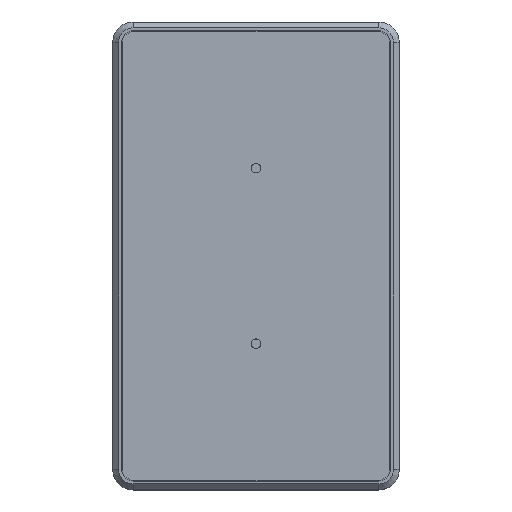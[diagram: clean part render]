
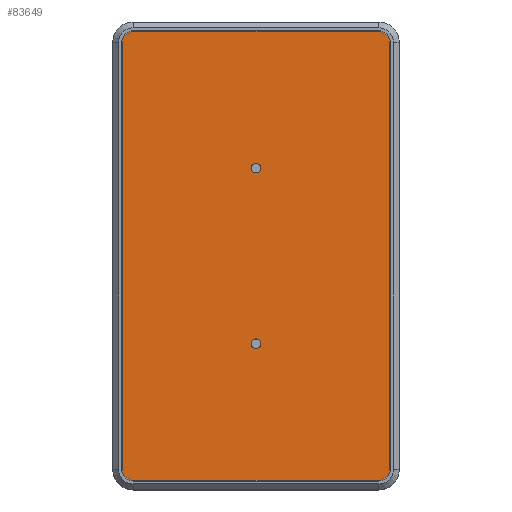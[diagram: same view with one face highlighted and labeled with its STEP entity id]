
A CAD part, top view. The second image highlights one B-rep face of the part: STEP entity #83649.
In plain terms, the highlighted planar face has unit normal (0, 0, 1).
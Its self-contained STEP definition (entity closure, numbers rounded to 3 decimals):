
#1397=FACE_BOUND('',#12962,.T.);
#1398=FACE_BOUND('',#12963,.T.);
#8306=FACE_OUTER_BOUND('',#12961,.T.);
#12961=EDGE_LOOP('',(#71440,#71441,#71442,#71443,#71444,#71445,#71446,#71447));
#12962=EDGE_LOOP('',(#71448));
#12963=EDGE_LOOP('',(#71449));
#19980=LINE('',#177970,#27014);
#19984=LINE('',#177982,#27018);
#19988=LINE('',#177994,#27022);
#19992=LINE('',#178005,#27026);
#27014=VECTOR('',#109462,10.);
#27018=VECTOR('',#109474,10.);
#27022=VECTOR('',#109486,10.);
#27026=VECTOR('',#109498,10.);
#29808=CIRCLE('',#90033,1.621);
#29809=CIRCLE('',#90035,1.621);
#29810=CIRCLE('',#90037,4.);
#29812=CIRCLE('',#90041,4.);
#29814=CIRCLE('',#90045,4.);
#29816=CIRCLE('',#90049,4.);
#37462=VERTEX_POINT('',#177952);
#37463=VERTEX_POINT('',#177956);
#37464=VERTEX_POINT('',#177960);
#37465=VERTEX_POINT('',#177961);
#37468=VERTEX_POINT('',#177969);
#37470=VERTEX_POINT('',#177975);
#37472=VERTEX_POINT('',#177981);
#37474=VERTEX_POINT('',#177987);
#37476=VERTEX_POINT('',#177993);
#37478=VERTEX_POINT('',#177999);
#48910=EDGE_CURVE('',#37462,#37462,#29808,.T.);
#48912=EDGE_CURVE('',#37463,#37463,#29809,.T.);
#48914=EDGE_CURVE('',#37464,#37465,#29810,.T.);
#48918=EDGE_CURVE('',#37465,#37468,#19980,.T.);
#48921=EDGE_CURVE('',#37468,#37470,#29812,.T.);
#48924=EDGE_CURVE('',#37470,#37472,#19984,.T.);
#48927=EDGE_CURVE('',#37472,#37474,#29814,.T.);
#48930=EDGE_CURVE('',#37474,#37476,#19988,.T.);
#48933=EDGE_CURVE('',#37476,#37478,#29816,.T.);
#48936=EDGE_CURVE('',#37478,#37464,#19992,.T.);
#71440=ORIENTED_EDGE('',*,*,#48914,.F.);
#71441=ORIENTED_EDGE('',*,*,#48936,.F.);
#71442=ORIENTED_EDGE('',*,*,#48933,.F.);
#71443=ORIENTED_EDGE('',*,*,#48930,.F.);
#71444=ORIENTED_EDGE('',*,*,#48927,.F.);
#71445=ORIENTED_EDGE('',*,*,#48924,.F.);
#71446=ORIENTED_EDGE('',*,*,#48921,.F.);
#71447=ORIENTED_EDGE('',*,*,#48918,.F.);
#71448=ORIENTED_EDGE('',*,*,#48910,.T.);
#71449=ORIENTED_EDGE('',*,*,#48912,.T.);
#75268=PLANE('',#90052);
#83649=ADVANCED_FACE('',(#8306,#1397,#1398),#75268,.T.);
#90033=AXIS2_PLACEMENT_3D('',#177953,#109444,#109445);
#90035=AXIS2_PLACEMENT_3D('',#177957,#109449,#109450);
#90037=AXIS2_PLACEMENT_3D('',#177962,#109454,#109455);
#90041=AXIS2_PLACEMENT_3D('',#177976,#109467,#109468);
#90045=AXIS2_PLACEMENT_3D('',#177988,#109479,#109480);
#90049=AXIS2_PLACEMENT_3D('',#178000,#109491,#109492);
#90052=AXIS2_PLACEMENT_3D('',#178007,#109500,#109501);
#109444=DIRECTION('center_axis',(0.,0.,
-1.));
#109445=DIRECTION('ref_axis',(1.,0.,0.));
#109449=DIRECTION('center_axis',(0.,0.,
-1.));
#109450=DIRECTION('ref_axis',(1.,0.,0.));
#109454=DIRECTION('center_axis',(0.,0.,
-1.));
#109455=DIRECTION('ref_axis',(-1.,0.,0.));
#109462=DIRECTION('',(0.,1.,0.));
#109467=DIRECTION('center_axis',(0.,0.,
-1.));
#109468=DIRECTION('ref_axis',(0.,1.,0.));
#109474=DIRECTION('',(1.,0.,0.));
#109479=DIRECTION('center_axis',(0.,0.,
-1.));
#109480=DIRECTION('ref_axis',(1.,0.,0.));
#109486=DIRECTION('',(0.,-1.,0.));
#109491=DIRECTION('center_axis',(0.,0.,
-1.));
#109492=DIRECTION('ref_axis',(0.,-1.,0.));
#109498=DIRECTION('',(-1.,0.,0.));
#109500=DIRECTION('center_axis',(0.,0.,
1.));
#109501=DIRECTION('ref_axis',(1.,0.,0.));
#177952=CARTESIAN_POINT('',(47.703,110.89,33.));
#177953=CARTESIAN_POINT('Origin',(49.324,110.89,33.));
#177956=CARTESIAN_POINT('',(47.703,50.89,33.));
#177957=CARTESIAN_POINT('Origin',(49.324,50.89,33.));
#177960=CARTESIAN_POINT('',(7.574,4.14,33.));
#177961=CARTESIAN_POINT('',(3.574,8.14,33.));
#177962=CARTESIAN_POINT('Origin',(7.574,8.14,33.));
#177969=CARTESIAN_POINT('',(3.574,153.64,33.));
#177970=CARTESIAN_POINT('',(3.574,153.64,33.));
#177975=CARTESIAN_POINT('',(7.574,157.64,33.));
#177976=CARTESIAN_POINT('Origin',(7.574,153.64,33.));
#177981=CARTESIAN_POINT('',(91.074,157.64,33.));
#177982=CARTESIAN_POINT('',(91.074,157.64,33.));
#177987=CARTESIAN_POINT('',(95.074,153.64,33.));
#177988=CARTESIAN_POINT('Origin',(91.074,153.64,33.));
#177993=CARTESIAN_POINT('',(95.074,8.14,33.));
#177994=CARTESIAN_POINT('',(95.074,8.14,33.));
#177999=CARTESIAN_POINT('',(91.074,4.14,33.));
#178000=CARTESIAN_POINT('Origin',(91.074,8.14,33.));
#178005=CARTESIAN_POINT('',(7.574,4.14,33.));
#178007=CARTESIAN_POINT('Origin',(49.324,80.89,33.));
